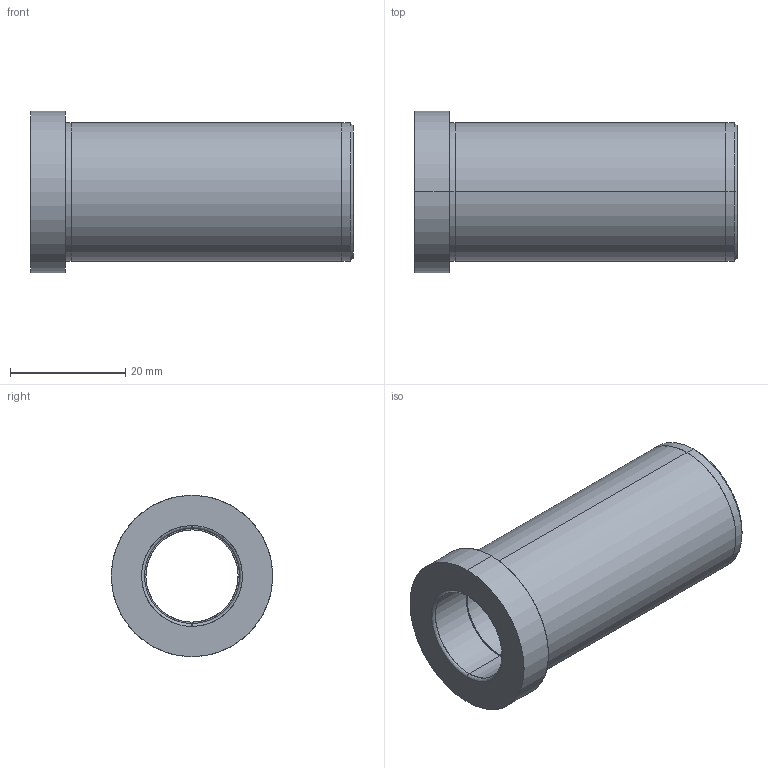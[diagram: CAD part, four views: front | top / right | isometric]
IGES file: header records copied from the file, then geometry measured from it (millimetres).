
Start section: SolidWorks IGES file using analytic representation for surfaces
Global section: file name: C:\Documents and Settings\kalite-mail\Desktop\IGS\D20\D20 - 16x56.IGS; native system: SolidWorks 2008; preprocessor: SolidWorks 2008; author: kalite-mail; date: 080617.113358; units: millimetre
Bounding box: 56 x 28 x 28 mm (x, y, z)
Surface area: 7914.9 mm2 (no closed solid volume)
Topology: 0 solids, 0 shells, 24 faces, 520 edges, 520 vertices
Faces by surface type: revolution 14, bspline 10
